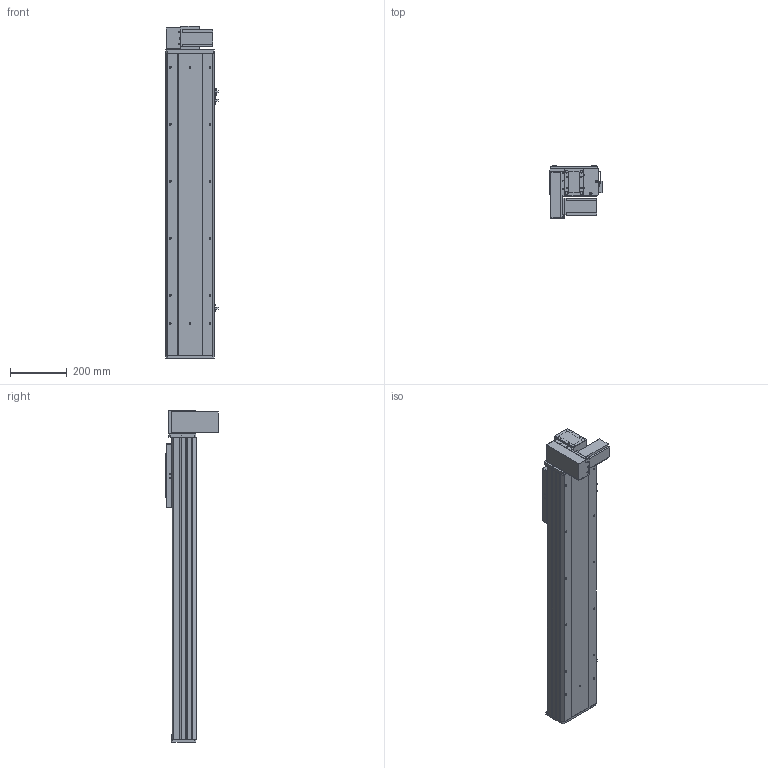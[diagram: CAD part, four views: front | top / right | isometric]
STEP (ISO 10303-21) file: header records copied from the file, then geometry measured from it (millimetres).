
FILE_DESCRIPTION (( 'STEP AP203' ), '1' );
FILE_NAME ('Y170CB-D105-S750-BM-P400W.STEP', '2020-02-20T06:20:06', ( '微软用户' ), ( '微软中国' ), 'SwSTEP 2.0', 'SolidWorks 2017', '' );
FILE_SCHEMA (( 'CONFIG_CONTROL_DESIGN' ));
Length unit declared in the file: millimetre
Products named in the file (18): Y1埴倛裔; 70CB-耜裔啣-; 17B-耜蚾蟀諉啣----; 70C--詩湍揤踡え-; 00B-俋欶BM--163; 70CB--耜裔; 70B喘謫眊----; 70C-雄赽釱-奻-; Y170CB-D105-S750-BM-P400W; 0C--雄赽釱俋欶-170; 0B-萇儂楊擘啣; B-源倛裔啣; 70CB-詩湍--; san松下电机400不带刹车----; Y100-135俋离換覜ん--; 70CB-掛极-; Y170CB-陔俋离換覜結え---; --70CB --喘謫眊楊擘啣-
Assembly tree (21 placements, depth 2):
  Y170CB-D105-S750-BM-P400W
    B-源倛裔啣
    0B-萇儂楊擘啣
    san松下电机400不带刹车----
    70CB-掛极-
    --70CB --喘謫眊楊擘啣-
    70CB-耜裔啣-  x2
    70C--詩湍揤踡え-  x2
    70CB--耜裔
    70C-雄赽釱-奻-
    0C--雄赽釱俋欶-170
    70CB-詩湍--
    Y100-135俋离換覜ん--  x3
    Y170CB-陔俋离換覜結え---
    Y1埴倛裔
    17B-耜蚾蟀諉啣----
    00B-俋欶BM--163
    70B喘謫眊----
Bounding box: 183.5 x 184 x 1166 mm (x, y, z)
Volume: 5554906.3 mm3; surface area: 1985482.6 mm2
Topology: 21 solids, 21 shells, 999 faces, 2669 edges, 1770 vertices
Faces by surface type: cylinder 513, plane 462, cone 24
Entity records: 31744 total; most frequent: CARTESIAN_POINT 5796, DIRECTION 5162, ORIENTED_EDGE 4820, EDGE_CURVE 2410, AXIS2_PLACEMENT_3D 1888, VERTEX_POINT 1600, VECTOR 1386, LINE 1386
